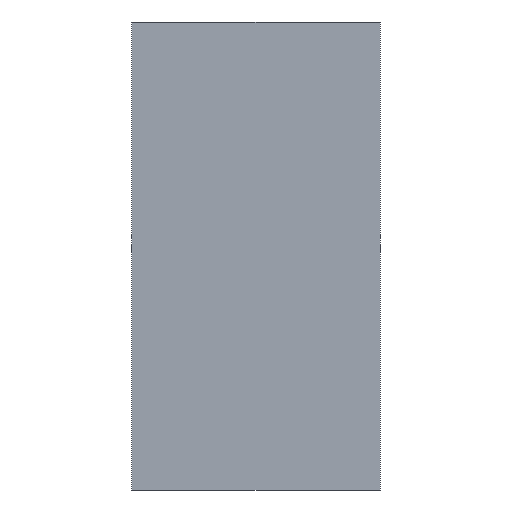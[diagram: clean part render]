
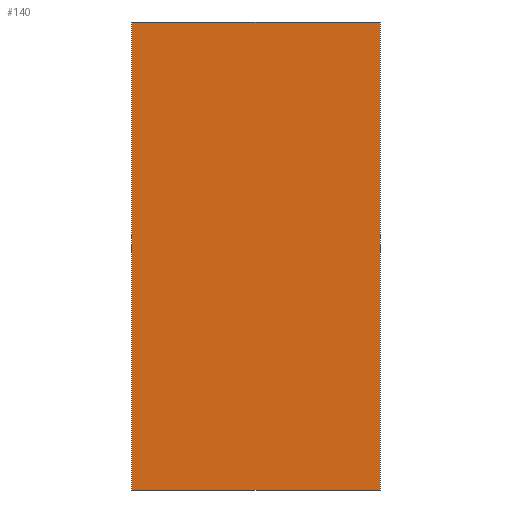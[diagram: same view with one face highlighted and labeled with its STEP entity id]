
A CAD part, front view. The second image highlights one B-rep face of the part: STEP entity #140.
In plain terms, the highlighted planar face has unit normal (0, -1, 0).
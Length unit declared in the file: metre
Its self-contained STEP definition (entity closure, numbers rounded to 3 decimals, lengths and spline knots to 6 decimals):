
#20=ORIENTED_EDGE('',*,*,#55,.T.);
#21=ORIENTED_EDGE('',*,*,#56,.F.);
#22=ORIENTED_EDGE('',*,*,#57,.F.);
#23=ORIENTED_EDGE('',*,*,#53,.T.);
#53=EDGE_CURVE('',#71,#70,#83,.T.);
#55=EDGE_CURVE('',#70,#72,#85,.T.);
#56=EDGE_CURVE('',#73,#72,#86,.T.);
#57=EDGE_CURVE('',#71,#73,#87,.T.);
#70=VERTEX_POINT('',#215);
#71=VERTEX_POINT('',#217);
#72=VERTEX_POINT('',#221);
#73=VERTEX_POINT('',#223);
#83=LINE('',#216,#101);
#85=LINE('',#220,#103);
#86=LINE('',#222,#104);
#87=LINE('',#224,#105);
#101=VECTOR('',#178,1.);
#103=VECTOR('',#182,1.);
#104=VECTOR('',#183,1.);
#105=VECTOR('',#184,1.);
#116=EDGE_LOOP('',(#20,#21,#22,#23));
#124=FACE_BOUND('',#116,.T.);
#132=PLANE('',#161);
#140=ADVANCED_FACE('',(#124),#132,.F.);
#161=AXIS2_PLACEMENT_3D('',#219,#180,#181);
#178=DIRECTION('',(1.,0.,0.));
#180=DIRECTION('',(0.,1.,0.));
#181=DIRECTION('',(0.,0.,1.));
#182=DIRECTION('',(0.,0.,1.));
#183=DIRECTION('',(1.,0.,0.));
#184=DIRECTION('',(0.,0.,1.));
#215=CARTESIAN_POINT('',(-0.035,-0.043968,0.001662));
#216=CARTESIAN_POINT('',(-0.037,-0.043968,0.001662));
#217=CARTESIAN_POINT('',(-0.037,-0.043968,0.001662));
#219=CARTESIAN_POINT('',(-0.037,-0.043968,0.003541));
#220=CARTESIAN_POINT('',(-0.035,-0.043968,0.003541));
#221=CARTESIAN_POINT('',(-0.035,-0.043968,0.005421));
#222=CARTESIAN_POINT('',(-0.037,-0.043968,0.005421));
#223=CARTESIAN_POINT('',(-0.037,-0.043968,0.005421));
#224=CARTESIAN_POINT('',(-0.037,-0.043968,0.003541));
